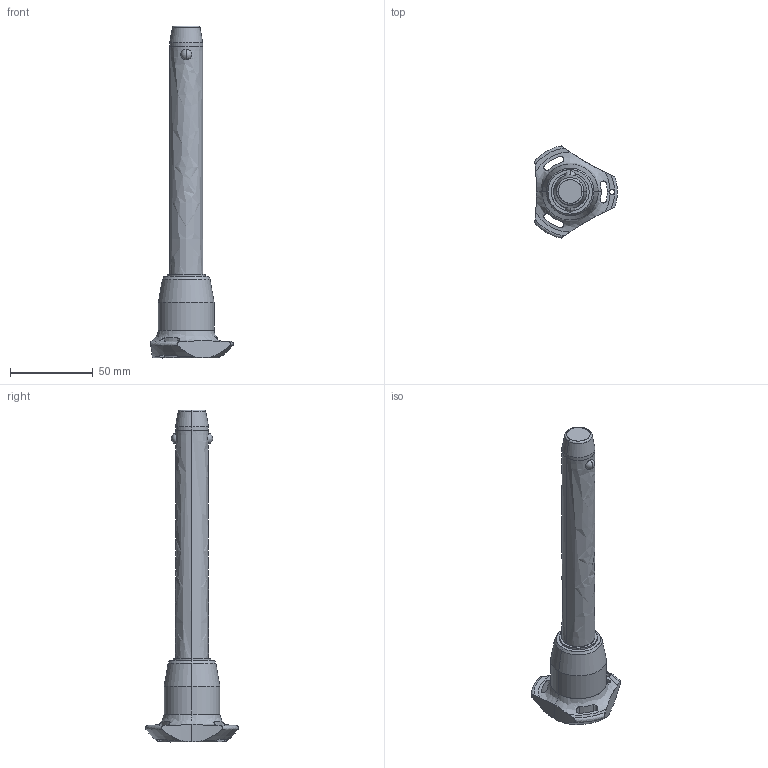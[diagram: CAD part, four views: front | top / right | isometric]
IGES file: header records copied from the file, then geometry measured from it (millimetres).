
Start section: SolidWorks IGES file using analytic representation for surfaces
Global section: file name: C:\Users\ianosborn\Desktop\QR1736_v2\QR1736_v2_20251115_IGES\QR1736.M20-130-T.igs; native system: SolidWorks 2019; preprocessor: SolidWorks 2019; author: IanOsborn; date: 251113.121348; units: millimetre
Bounding box: 50.03 x 56.02 x 201.2 mm (x, y, z)
Surface area: 19135.8 mm2 (no closed solid volume)
Topology: 0 solids, 0 shells, 68 faces, 1382 edges, 1378 vertices
Faces by surface type: revolution 52, bspline 16
